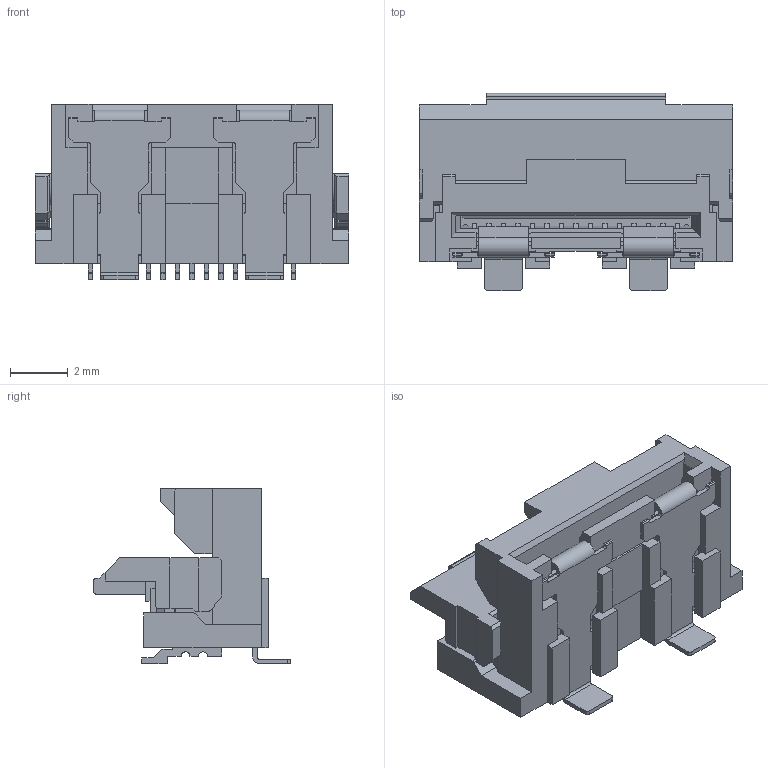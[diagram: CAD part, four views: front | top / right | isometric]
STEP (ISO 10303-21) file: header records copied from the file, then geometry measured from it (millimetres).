
FILE_DESCRIPTION(/* description */ (''),/* implementation_level */ '2;1');
FILE_NAME(/* name */ '5022311000_lock_stp.stp',/* time_stamp */ '2017-11-29T15:48:30+09:00',/* author */ (''),/* organization */ (''),/* preprocessor_version */ 'ST-DEVELOPER v15',/* originating_system */ 'SIEMENS PLM Software NX 8.5',/* authorisation */ '');
FILE_SCHEMA (('AUTOMOTIVE_DESIGN { 1 0 10303 214 3 1 1 1 }'));
Length unit declared in the file: millimetre
Products named in the file (1): yche32FCB9375ub4
Bounding box: 10.8 x 6.8 x 6.05 mm (x, y, z)
Volume: 153.4 mm3; surface area: 594.6 mm2
Topology: 1 solids, 1 shells, 1082 faces, 3166 edges, 2086 vertices
Faces by surface type: plane 914, cylinder 168
Entity records: 35476 total; most frequent: CARTESIAN_POINT 6335, ORIENTED_EDGE 6332, DIRECTION 5682, EDGE_CURVE 3166, LINE 2816, VECTOR 2816, VERTEX_POINT 2086, AXIS2_PLACEMENT_3D 1433
